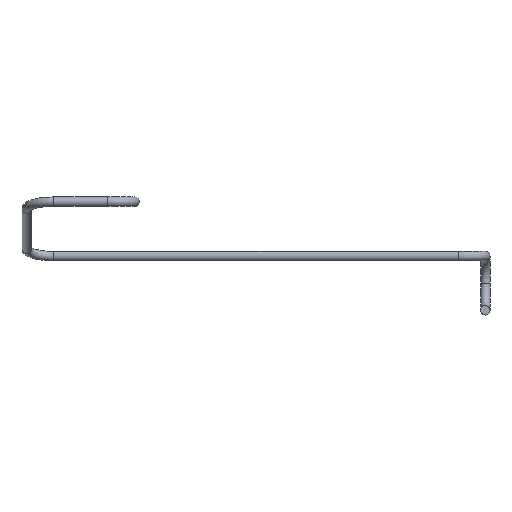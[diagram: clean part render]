
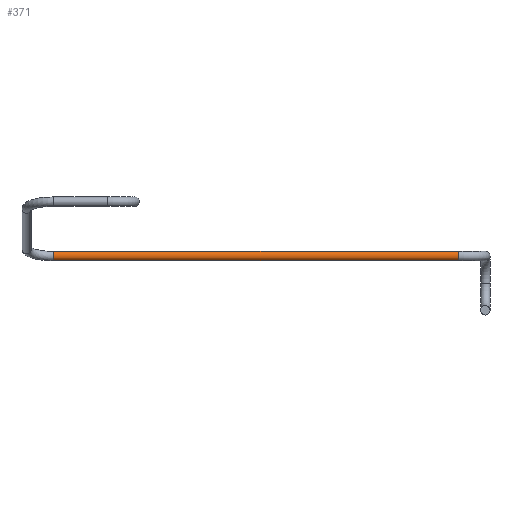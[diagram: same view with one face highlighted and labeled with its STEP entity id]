
A CAD part, left-side view. The second image highlights one B-rep face of the part: STEP entity #371.
In plain terms, the highlighted cylindrical face has radius 0.525 mm (diameter 1.05 mm), a full revolution.
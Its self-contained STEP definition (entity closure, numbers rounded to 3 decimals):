
#305 = TOROIDAL_SURFACE('',#306,3.,0.525);
#306 = AXIS2_PLACEMENT_3D('',#307,#308,#309);
#307 = CARTESIAN_POINT('',(4.,-34.04,-11.15));
#308 = DIRECTION('',(-0.,-0.,-1.));
#309 = DIRECTION('',(0.,-1.,0.));
#322 = VERTEX_POINT('',#323);
#323 = CARTESIAN_POINT('',(1.,-34.04,-11.675));
#344 = EDGE_CURVE('',#322,#322,#345,.T.);
#345 = SURFACE_CURVE('',#346,(#351,#358),.PCURVE_S1.);
#346 = CIRCLE('',#347,0.525);
#347 = AXIS2_PLACEMENT_3D('',#348,#349,#350);
#348 = CARTESIAN_POINT('',(1.,-34.04,-11.15));
#349 = DIRECTION('',(0.,-1.,0.));
#350 = DIRECTION('',(-1.,0.,0.));
#351 = PCURVE('',#305,#352);
#352 = DEFINITIONAL_REPRESENTATION('',(#353),#357);
#353 = LINE('',#354,#355);
#354 = CARTESIAN_POINT('',(1.571,0.));
#355 = VECTOR('',#356,1.);
#356 = DIRECTION('',(0.,1.));
#357 = ( GEOMETRIC_REPRESENTATION_CONTEXT(2) 
PARAMETRIC_REPRESENTATION_CONTEXT() REPRESENTATION_CONTEXT('2D SPACE',''
  ) );
#358 = PCURVE('',#359,#364);
#359 = CYLINDRICAL_SURFACE('',#360,0.525);
#360 = AXIS2_PLACEMENT_3D('',#361,#362,#363);
#361 = CARTESIAN_POINT('',(1.,-34.04,-11.15));
#362 = DIRECTION('',(0.,1.,0.));
#363 = DIRECTION('',(0.,0.,-1.));
#364 = DEFINITIONAL_REPRESENTATION('',(#365),#368);
#365 = B_SPLINE_CURVE_WITH_KNOTS('',1,(#366,#367),.UNSPECIFIED.,.F.,.F.,
  (2,2),(1.571,7.854),.PIECEWISE_BEZIER_KNOTS.);
#366 = CARTESIAN_POINT('',(6.283,0.));
#367 = CARTESIAN_POINT('',(0.,0.));
#368 = ( GEOMETRIC_REPRESENTATION_CONTEXT(2) 
PARAMETRIC_REPRESENTATION_CONTEXT() REPRESENTATION_CONTEXT('2D SPACE',''
  ) );
#371 = ADVANCED_FACE('',(#372),#359,.T.);
#372 = FACE_BOUND('',#373,.T.);
#373 = EDGE_LOOP('',(#374,#396,#422,#423));
#374 = ORIENTED_EDGE('',*,*,#375,.T.);
#375 = EDGE_CURVE('',#322,#376,#378,.T.);
#376 = VERTEX_POINT('',#377);
#377 = CARTESIAN_POINT('',(1.,11.,-11.675));
#378 = SEAM_CURVE('',#379,(#383,#389),.PCURVE_S1.);
#379 = LINE('',#380,#381);
#380 = CARTESIAN_POINT('',(1.,-34.04,-11.675));
#381 = VECTOR('',#382,1.);
#382 = DIRECTION('',(0.,1.,0.));
#383 = PCURVE('',#359,#384);
#384 = DEFINITIONAL_REPRESENTATION('',(#385),#388);
#385 = B_SPLINE_CURVE_WITH_KNOTS('',1,(#386,#387),.UNSPECIFIED.,.F.,.F.,
  (2,2),(0.,45.04),.PIECEWISE_BEZIER_KNOTS.);
#386 = CARTESIAN_POINT('',(6.283,0.));
#387 = CARTESIAN_POINT('',(6.283,45.04));
#388 = ( GEOMETRIC_REPRESENTATION_CONTEXT(2) 
PARAMETRIC_REPRESENTATION_CONTEXT() REPRESENTATION_CONTEXT('2D SPACE',''
  ) );
#389 = PCURVE('',#359,#390);
#390 = DEFINITIONAL_REPRESENTATION('',(#391),#395);
#391 = LINE('',#392,#393);
#392 = CARTESIAN_POINT('',(0.,0.));
#393 = VECTOR('',#394,1.);
#394 = DIRECTION('',(0.,1.));
#395 = ( GEOMETRIC_REPRESENTATION_CONTEXT(2) 
PARAMETRIC_REPRESENTATION_CONTEXT() REPRESENTATION_CONTEXT('2D SPACE',''
  ) );
#396 = ORIENTED_EDGE('',*,*,#397,.F.);
#397 = EDGE_CURVE('',#376,#376,#398,.T.);
#398 = SURFACE_CURVE('',#399,(#404,#411),.PCURVE_S1.);
#399 = CIRCLE('',#400,0.525);
#400 = AXIS2_PLACEMENT_3D('',#401,#402,#403);
#401 = CARTESIAN_POINT('',(1.,11.,-11.15));
#402 = DIRECTION('',(0.,1.,0.));
#403 = DIRECTION('',(0.,0.,-1.));
#404 = PCURVE('',#359,#405);
#405 = DEFINITIONAL_REPRESENTATION('',(#406),#410);
#406 = LINE('',#407,#408);
#407 = CARTESIAN_POINT('',(0.,45.04));
#408 = VECTOR('',#409,1.);
#409 = DIRECTION('',(1.,0.));
#410 = ( GEOMETRIC_REPRESENTATION_CONTEXT(2) 
PARAMETRIC_REPRESENTATION_CONTEXT() REPRESENTATION_CONTEXT('2D SPACE',''
  ) );
#411 = PCURVE('',#412,#417);
#412 = TOROIDAL_SURFACE('',#413,3.,0.525);
#413 = AXIS2_PLACEMENT_3D('',#414,#415,#416);
#414 = CARTESIAN_POINT('',(-1.892,11.,-10.354));
#415 = DIRECTION('',(0.265,0.,0.964));
#416 = DIRECTION('',(0.964,0.,-0.265)
  );
#417 = DEFINITIONAL_REPRESENTATION('',(#418),#421);
#418 = B_SPLINE_CURVE_WITH_KNOTS('',1,(#419,#420),.UNSPECIFIED.,.F.,.F.,
  (2,2),(0.,6.283),.PIECEWISE_BEZIER_KNOTS.);
#419 = CARTESIAN_POINT('',(0.,11.264));
#420 = CARTESIAN_POINT('',(0.,4.981));
#421 = ( GEOMETRIC_REPRESENTATION_CONTEXT(2) 
PARAMETRIC_REPRESENTATION_CONTEXT() REPRESENTATION_CONTEXT('2D SPACE',''
  ) );
#422 = ORIENTED_EDGE('',*,*,#375,.F.);
#423 = ORIENTED_EDGE('',*,*,#344,.F.);
